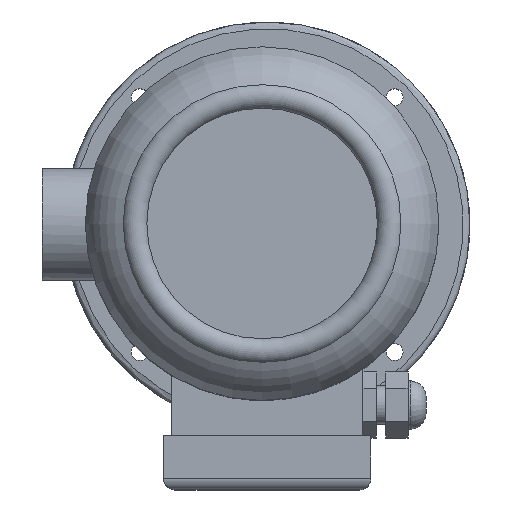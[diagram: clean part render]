
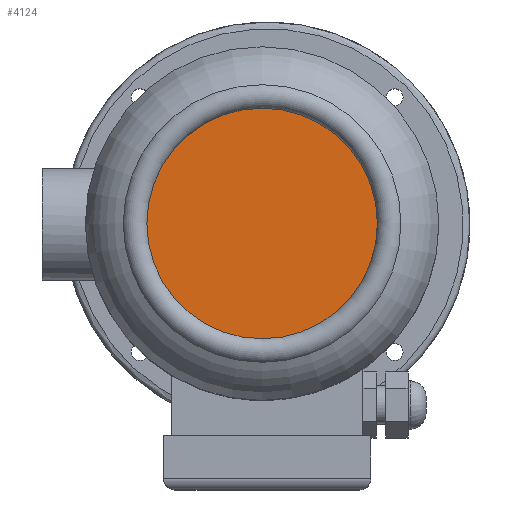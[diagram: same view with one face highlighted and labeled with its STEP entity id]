
A CAD part, top view. The second image highlights one B-rep face of the part: STEP entity #4124.
In plain terms, the highlighted planar face has unit normal (0, 0, 1).
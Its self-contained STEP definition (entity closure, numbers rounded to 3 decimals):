
#1948=ORIENTED_EDGE('',*,*,#2497,.F.);
#2497=EDGE_CURVE('',#2890,#2890,#3020,.T.);
#2890=VERTEX_POINT('',#9712);
#3020=CIRCLE('',#4460,51.191);
#3390=EDGE_LOOP('',(#1948));
#3763=FACE_BOUND('',#3390,.T.);
#3870=PLANE('',#4459);
#4124=ADVANCED_FACE('',(#3763),#3870,.T.);
#4459=AXIS2_PLACEMENT_3D('',#9710,#5376,#5377);
#4460=AXIS2_PLACEMENT_3D('',#9711,#5378,#5379);
#5376=DIRECTION('',(0.,0.,1.));
#5377=DIRECTION('',(1.,0.,0.));
#5378=DIRECTION('',(0.,0.,-1.));
#5379=DIRECTION('',(-1.,0.,0.));
#9710=CARTESIAN_POINT('',(-53.473,0.,854.26));
#9711=CARTESIAN_POINT('',(-2.281,0.,854.26));
#9712=CARTESIAN_POINT('',(-53.473,0.,854.26));
